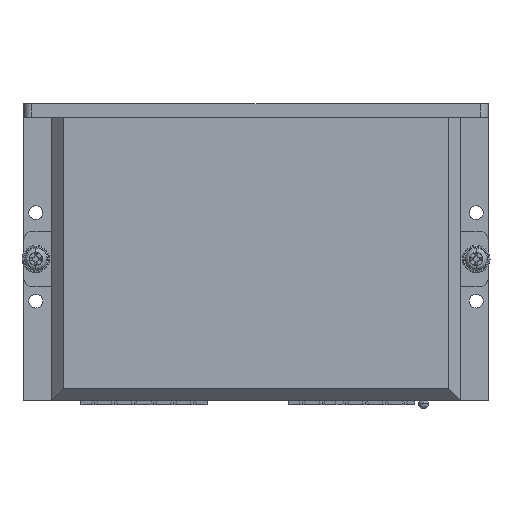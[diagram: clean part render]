
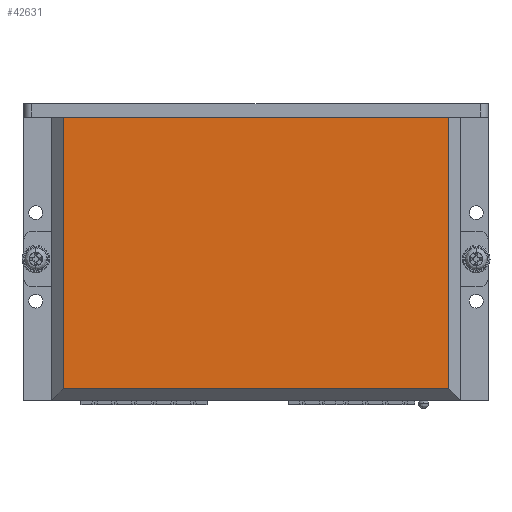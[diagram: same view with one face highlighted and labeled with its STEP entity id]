
A CAD part, top view. The second image highlights one B-rep face of the part: STEP entity #42631.
In plain terms, the highlighted planar face has unit normal (0, 0, 1).
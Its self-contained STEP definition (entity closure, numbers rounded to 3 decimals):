
#446 = CARTESIAN_POINT ( 'NONE',  ( 49., 36., 22. ) ) ;
#4433 = ORIENTED_EDGE ( 'NONE', *, *, #11528, .F. ) ;
#6085 = FACE_OUTER_BOUND ( 'NONE', #29473, .T. ) ;
#6963 = CARTESIAN_POINT ( 'NONE',  ( 49., 3., 22. ) ) ;
#11528 = EDGE_CURVE ( 'NONE', #62282, #20361, #21824, .T. ) ;
#13397 = CARTESIAN_POINT ( 'NONE',  ( -49., 36., 22. ) ) ;
#13461 = EDGE_CURVE ( 'NONE', #18603, #47441, #24842, .T. ) ;
#14932 = CARTESIAN_POINT ( 'NONE',  ( -49., 72., 22. ) ) ;
#15043 = DIRECTION ( 'NONE',  ( -1., 0., 0. ) ) ;
#18603 = VERTEX_POINT ( 'NONE', #6963 ) ;
#20020 = VECTOR ( 'NONE', #24604, 1000. ) ;
#20361 = VERTEX_POINT ( 'NONE', #43059 ) ;
#21824 = LINE ( 'NONE', #30209, #20020 ) ;
#24604 = DIRECTION ( 'NONE',  ( 1., 0., 0. ) ) ;
#24842 = LINE ( 'NONE', #48677, #52957 ) ;
#29473 = EDGE_LOOP ( 'NONE', ( #66091, #67893, #55118, #4433 ) ) ;
#30209 = CARTESIAN_POINT ( 'NONE',  ( 0., 72., 22. ) ) ;
#30385 = CARTESIAN_POINT ( 'NONE',  ( -50.96, 1.62, 22. ) ) ;
#33316 = LINE ( 'NONE', #13397, #46518 ) ;
#33759 = DIRECTION ( 'NONE',  ( 0., -1., 0. ) ) ;
#35803 = PLANE ( 'NONE',  #68058 ) ;
#36041 = DIRECTION ( 'NONE',  ( 1., 0., 0. ) ) ;
#42631 = ADVANCED_FACE ( 'NONE', ( #6085 ), #35803, .T. ) ;
#43059 = CARTESIAN_POINT ( 'NONE',  ( 49., 72., 22. ) ) ;
#46518 = VECTOR ( 'NONE', #69607, 1000. ) ;
#47441 = VERTEX_POINT ( 'NONE', #57649 ) ;
#47471 = LINE ( 'NONE', #446, #57183 ) ;
#48677 = CARTESIAN_POINT ( 'NONE',  ( 0., 3., 22. ) ) ;
#52957 = VECTOR ( 'NONE', #15043, 1000. ) ;
#55118 = ORIENTED_EDGE ( 'NONE', *, *, #60782, .F. ) ;
#57183 = VECTOR ( 'NONE', #33759, 1000. ) ;
#57649 = CARTESIAN_POINT ( 'NONE',  ( -49., 3., 22. ) ) ;
#60782 = EDGE_CURVE ( 'NONE', #20361, #18603, #47471, .T. ) ;
#62282 = VERTEX_POINT ( 'NONE', #14932 ) ;
#62753 = EDGE_CURVE ( 'NONE', #47441, #62282, #33316, .T. ) ;
#66091 = ORIENTED_EDGE ( 'NONE', *, *, #62753, .F. ) ;
#67893 = ORIENTED_EDGE ( 'NONE', *, *, #13461, .F. ) ;
#68058 = AXIS2_PLACEMENT_3D ( 'NONE', #30385, #69687, #36041 ) ;
#69607 = DIRECTION ( 'NONE',  ( 0., 1., 0. ) ) ;
#69687 = DIRECTION ( 'NONE',  ( 0., 0., 1. ) ) ;
